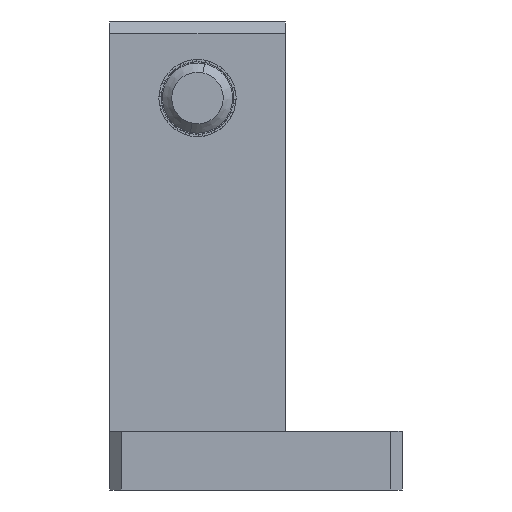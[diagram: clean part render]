
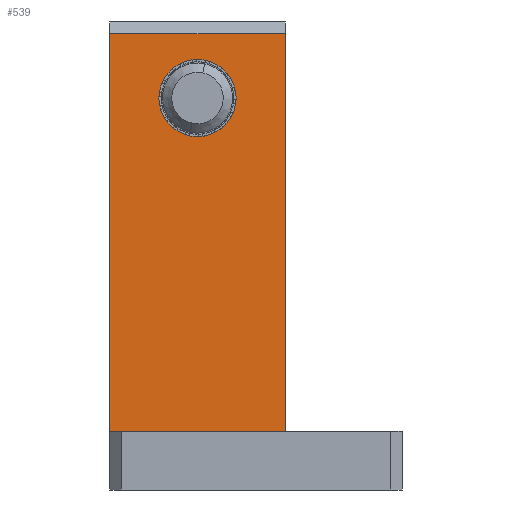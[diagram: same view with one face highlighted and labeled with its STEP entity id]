
A CAD part, left-side view. The second image highlights one B-rep face of the part: STEP entity #539.
In plain terms, the highlighted planar face has unit normal (-1, 0, 0).
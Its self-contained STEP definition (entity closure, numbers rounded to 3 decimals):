
#448 = DIRECTION ( 'NONE',  ( 1., 0., 0. ) ) ;
#539 = ADVANCED_FACE ( 'NONE', ( #3542, #3671 ), #10161, .F. ) ;
#565 = ORIENTED_EDGE ( 'NONE', *, *, #3183, .T. ) ;
#726 = DIRECTION ( 'NONE',  ( -1., 0., 0. ) ) ;
#772 = EDGE_CURVE ( 'NONE', #2917, #8125, #3093, .T. ) ;
#886 = DIRECTION ( 'NONE',  ( -1., 0., 0. ) ) ;
#1172 = VECTOR ( 'NONE', #8015, 1000. ) ;
#1527 = VECTOR ( 'NONE', #1639, 1000. ) ;
#1639 = DIRECTION ( 'NONE',  ( 0., -1., 0. ) ) ;
#1664 = ORIENTED_EDGE ( 'NONE', *, *, #5365, .F. ) ;
#1686 = VECTOR ( 'NONE', #3339, 1000. ) ;
#2182 = CARTESIAN_POINT ( 'NONE',  ( 32.636, 14.927, 19. ) ) ;
#2391 = CARTESIAN_POINT ( 'NONE',  ( 32.636, 22.427, 16.8 ) ) ;
#2428 = DIRECTION ( 'NONE',  ( 0., 0., -1. ) ) ;
#2531 = ORIENTED_EDGE ( 'NONE', *, *, #5345, .F. ) ;
#2797 = DIRECTION ( 'NONE',  ( 0., 0., 1. ) ) ;
#2917 = VERTEX_POINT ( 'NONE', #4247 ) ;
#3093 = LINE ( 'NONE', #3789, #1686 ) ;
#3183 = EDGE_CURVE ( 'NONE', #2917, #7755, #6268, .T. ) ;
#3297 = ORIENTED_EDGE ( 'NONE', *, *, #8454, .F. ) ;
#3339 = DIRECTION ( 'NONE',  ( 0., 1., 0. ) ) ;
#3456 = LINE ( 'NONE', #7915, #1172 ) ;
#3542 = FACE_BOUND ( 'NONE', #9572, .T. ) ;
#3667 = LINE ( 'NONE', #8829, #1527 ) ;
#3671 = FACE_OUTER_BOUND ( 'NONE', #5474, .T. ) ;
#3789 = CARTESIAN_POINT ( 'NONE',  ( 32.636, 17.427, -15. ) ) ;
#4247 = CARTESIAN_POINT ( 'NONE',  ( 32.636, 14.927, -15. ) ) ;
#4488 = AXIS2_PLACEMENT_3D ( 'NONE', #5684, #726, #2428 ) ;
#4550 = VERTEX_POINT ( 'NONE', #7776 ) ;
#5106 = CIRCLE ( 'NONE', #4488, 3.3 ) ;
#5208 = AXIS2_PLACEMENT_3D ( 'NONE', #5313, #448, #6119 ) ;
#5313 = CARTESIAN_POINT ( 'NONE',  ( 32.636, 14.927, 19. ) ) ;
#5345 = EDGE_CURVE ( 'NONE', #8125, #8926, #3456, .T. ) ;
#5365 = EDGE_CURVE ( 'NONE', #4550, #7167, #5106, .T. ) ;
#5380 = ORIENTED_EDGE ( 'NONE', *, *, #10018, .F. ) ;
#5474 = EDGE_LOOP ( 'NONE', ( #3297, #2531, #9932, #565 ) ) ;
#5489 = CARTESIAN_POINT ( 'NONE',  ( 32.636, 29.927, 19. ) ) ;
#5684 = CARTESIAN_POINT ( 'NONE',  ( 32.636, 22.427, 13.5 ) ) ;
#5767 = DIRECTION ( 'NONE',  ( 0., 0., -1. ) ) ;
#6013 = VECTOR ( 'NONE', #2797, 1000. ) ;
#6119 = DIRECTION ( 'NONE',  ( 0., 0., -1. ) ) ;
#6268 = LINE ( 'NONE', #6847, #6013 ) ;
#6723 = CARTESIAN_POINT ( 'NONE',  ( 32.636, 29.927, -15. ) ) ;
#6847 = CARTESIAN_POINT ( 'NONE',  ( 32.636, 14.927, 2.5 ) ) ;
#7167 = VERTEX_POINT ( 'NONE', #2391 ) ;
#7755 = VERTEX_POINT ( 'NONE', #2182 ) ;
#7776 = CARTESIAN_POINT ( 'NONE',  ( 32.636, 22.427, 10.2 ) ) ;
#7803 = CIRCLE ( 'NONE', #8810, 3.3 ) ;
#7915 = CARTESIAN_POINT ( 'NONE',  ( 32.636, 29.927, 0. ) ) ;
#8015 = DIRECTION ( 'NONE',  ( 0., 0., 1. ) ) ;
#8125 = VERTEX_POINT ( 'NONE', #6723 ) ;
#8454 = EDGE_CURVE ( 'NONE', #8926, #7755, #3667, .T. ) ;
#8810 = AXIS2_PLACEMENT_3D ( 'NONE', #9866, #886, #5767 ) ;
#8829 = CARTESIAN_POINT ( 'NONE',  ( 32.636, 22.427, 19. ) ) ;
#8926 = VERTEX_POINT ( 'NONE', #5489 ) ;
#9572 = EDGE_LOOP ( 'NONE', ( #1664, #5380 ) ) ;
#9866 = CARTESIAN_POINT ( 'NONE',  ( 32.636, 22.427, 13.5 ) ) ;
#9932 = ORIENTED_EDGE ( 'NONE', *, *, #772, .F. ) ;
#10018 = EDGE_CURVE ( 'NONE', #7167, #4550, #7803, .T. ) ;
#10161 = PLANE ( 'NONE',  #5208 ) ;
